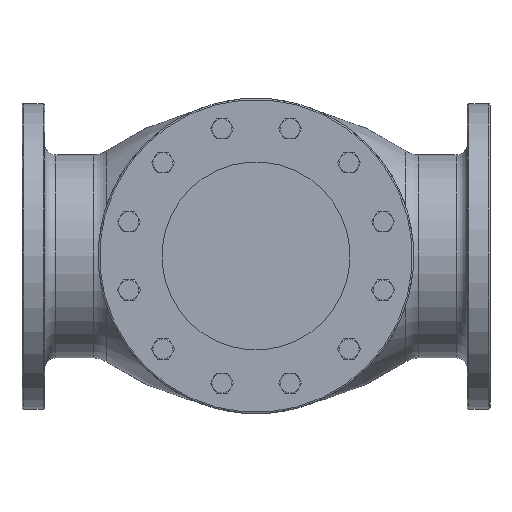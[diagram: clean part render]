
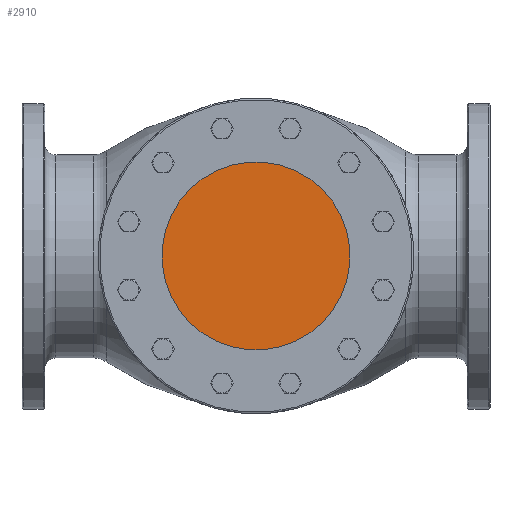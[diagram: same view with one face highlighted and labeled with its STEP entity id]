
A CAD part, top view. The second image highlights one B-rep face of the part: STEP entity #2910.
In plain terms, the highlighted planar face has unit normal (0, 0, 1).
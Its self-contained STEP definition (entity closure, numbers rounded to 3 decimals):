
#253 = EDGE_CURVE('',#254,#256,#258,.T.);
#254 = VERTEX_POINT('',#255);
#255 = CARTESIAN_POINT('',(-34.735,-182.701,
    931.959));
#256 = VERTEX_POINT('',#257);
#257 = CARTESIAN_POINT('',(29.969,-424.183,
    931.959));
#258 = SURFACE_CURVE('',#259,(#264,#276),.PCURVE_S1.);
#259 = CIRCLE('',#260,125.);
#260 = AXIS2_PLACEMENT_3D('',#261,#262,#263);
#261 = CARTESIAN_POINT('',(-2.383,-303.442,
    931.959));
#262 = DIRECTION('',(0.,0.,1.));
#263 = DIRECTION('',(0.259,-0.966,0.)
  );
#264 = PCURVE('',#265,#270);
#265 = CYLINDRICAL_SURFACE('',#266,125.);
#266 = AXIS2_PLACEMENT_3D('',#267,#268,#269);
#267 = CARTESIAN_POINT('',(-2.383,-303.442,
    931.959));
#268 = DIRECTION('',(0.,0.,1.));
#269 = DIRECTION('',(0.259,-0.966,0.)
  );
#270 = DEFINITIONAL_REPRESENTATION('',(#271),#275);
#271 = LINE('',#272,#273);
#272 = CARTESIAN_POINT('',(0.,0.));
#273 = VECTOR('',#274,1.);
#274 = DIRECTION('',(1.,0.));
#275 = ( GEOMETRIC_REPRESENTATION_CONTEXT(2) 
PARAMETRIC_REPRESENTATION_CONTEXT() REPRESENTATION_CONTEXT('2D SPACE',''
  ) );
#276 = PCURVE('',#277,#282);
#277 = PLANE('',#278);
#278 = AXIS2_PLACEMENT_3D('',#279,#280,#281);
#279 = CARTESIAN_POINT('',(-2.383,-303.442,
    931.959));
#280 = DIRECTION('',(0.,0.,1.));
#281 = DIRECTION('',(0.259,-0.966,0.)
  );
#282 = DEFINITIONAL_REPRESENTATION('',(#283),#287);
#283 = CIRCLE('',#284,125.);
#284 = AXIS2_PLACEMENT_2D('',#285,#286);
#285 = CARTESIAN_POINT('',(0.,0.));
#286 = DIRECTION('',(1.,0.));
#287 = ( GEOMETRIC_REPRESENTATION_CONTEXT(2) 
PARAMETRIC_REPRESENTATION_CONTEXT() REPRESENTATION_CONTEXT('2D SPACE',''
  ) );
#305 = CYLINDRICAL_SURFACE('',#306,125.);
#306 = AXIS2_PLACEMENT_3D('',#307,#308,#309);
#307 = CARTESIAN_POINT('',(-2.383,-303.442,
    931.959));
#308 = DIRECTION('',(0.,0.,1.));
#309 = DIRECTION('',(0.259,-0.966,0.)
  );
#2888 = EDGE_CURVE('',#256,#254,#2889,.T.);
#2889 = SURFACE_CURVE('',#2890,(#2895,#2902),.PCURVE_S1.);
#2890 = CIRCLE('',#2891,125.);
#2891 = AXIS2_PLACEMENT_3D('',#2892,#2893,#2894);
#2892 = CARTESIAN_POINT('',(-2.383,-303.442,
    931.959));
#2893 = DIRECTION('',(0.,0.,1.));
#2894 = DIRECTION('',(0.259,-0.966,0.)
  );
#2895 = PCURVE('',#305,#2896);
#2896 = DEFINITIONAL_REPRESENTATION('',(#2897),#2901);
#2897 = LINE('',#2898,#2899);
#2898 = CARTESIAN_POINT('',(0.,0.));
#2899 = VECTOR('',#2900,1.);
#2900 = DIRECTION('',(1.,0.));
#2901 = ( GEOMETRIC_REPRESENTATION_CONTEXT(2) 
PARAMETRIC_REPRESENTATION_CONTEXT() REPRESENTATION_CONTEXT('2D SPACE',''
  ) );
#2902 = PCURVE('',#277,#2903);
#2903 = DEFINITIONAL_REPRESENTATION('',(#2904),#2908);
#2904 = CIRCLE('',#2905,125.);
#2905 = AXIS2_PLACEMENT_2D('',#2906,#2907);
#2906 = CARTESIAN_POINT('',(0.,0.));
#2907 = DIRECTION('',(1.,0.));
#2908 = ( GEOMETRIC_REPRESENTATION_CONTEXT(2) 
PARAMETRIC_REPRESENTATION_CONTEXT() REPRESENTATION_CONTEXT('2D SPACE',''
  ) );
#2910 = ADVANCED_FACE('',(#2911),#277,.T.);
#2911 = FACE_BOUND('',#2912,.T.);
#2912 = EDGE_LOOP('',(#2913,#2914));
#2913 = ORIENTED_EDGE('',*,*,#2888,.T.);
#2914 = ORIENTED_EDGE('',*,*,#253,.T.);
